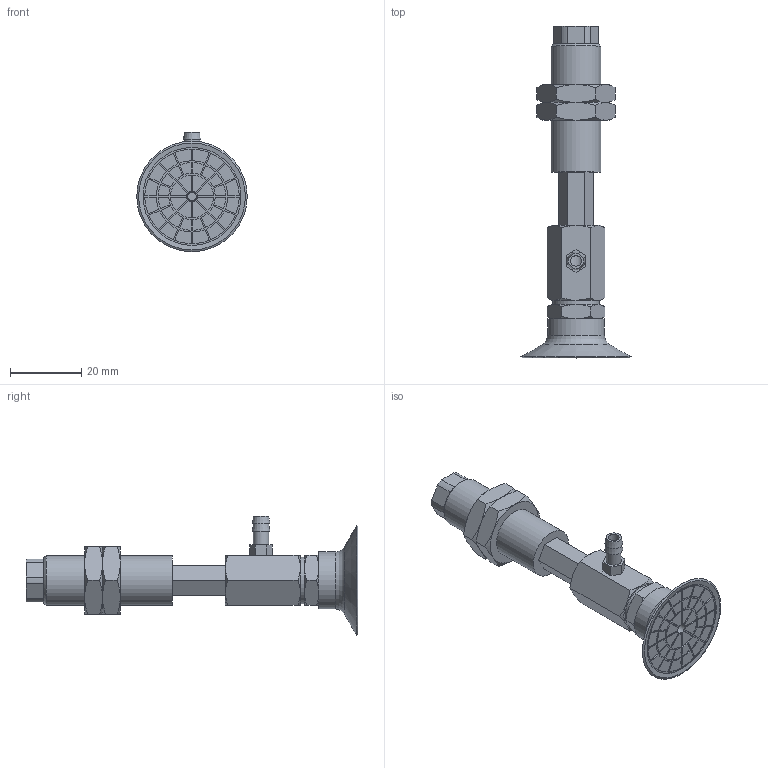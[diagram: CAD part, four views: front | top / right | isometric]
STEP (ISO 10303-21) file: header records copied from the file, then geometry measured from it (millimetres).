
FILE_DESCRIPTION(('STEP AP203'),'1');
FILE_NAME('-T.stp','2025-03-13T07:51:26',(' '),(' '),'Spatial InterOp 3D',' ',' ');
FILE_SCHEMA(('CONFIG_CONTROL_DESIGN'));
Length unit declared in the file: millimetre
Products named in the file (8): BNABPAYH-30B-15-※-T; NAPATH-30B-15--M; NAPATH-30B-15--F; Nut-25-S; CONNECTOR-30B-15-PA; TN-PA-30B-M6; CONNECTOR-10A-3-T-PA; BPAG-30B-※
Assembly tree (8 placements, depth 2):
  BNABPAYH-30B-15-※-T
    NAPATH-30B-15--M
    NAPATH-30B-15--F
    Nut-25-S  x2
    CONNECTOR-30B-15-PA
    TN-PA-30B-M6
    CONNECTOR-10A-3-T-PA
    BPAG-30B-※
Bounding box: 31.04 x 93.2 x 33.52 mm (x, y, z)
Volume: 15909.6 mm3; surface area: 12387.7 mm2
Topology: 8 solids, 8 shells, 392 faces, 908 edges, 581 vertices
Faces by surface type: plane 219, cylinder 99, cone 68, torus 6
Full cylindrical faces by diameter (mm): 2.5 x1, 3 x3, 4.134 x2, 4.3 x1, 4.917 x1, 5 x2, 6 x3, 10 x2, 12.917 x2, 13 x1, 14 x1, 16 x1, 27.5 x1
Entity records: 10940 total; most frequent: CARTESIAN_POINT 2177, DIRECTION 1768, ORIENTED_EDGE 1622, EDGE_CURVE 811, AXIS2_PLACEMENT_3D 654, VERTEX_POINT 547, EDGE_LOOP 474, LINE 460
